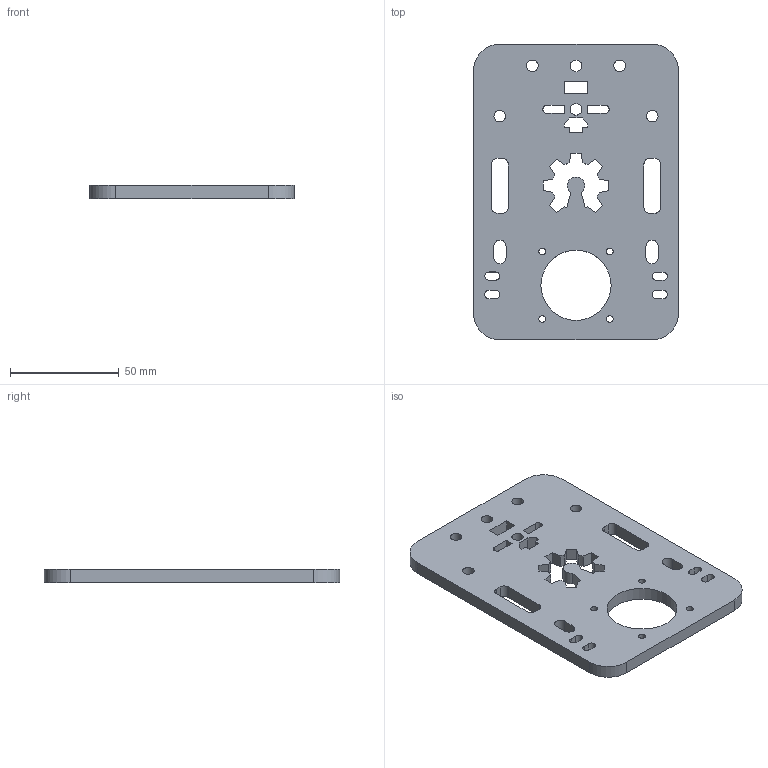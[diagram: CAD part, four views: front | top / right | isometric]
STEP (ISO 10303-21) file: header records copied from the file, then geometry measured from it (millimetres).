
FILE_DESCRIPTION(/* description */ ('STEP AP242 Edition 2','CAx-IF Rec.Pracs.---Representation and Presentation of Product Manufacturing Information (PMI)---4.0---2014-10-13','CAx-IF Rec.Pracs.---3D Tessellated Geometry---0.4---2014-09-14','2;1','CAx-IF Rec.Pracs.---User Defined Attributes---1.5---2016-08-15'),/* implementation_level */ '2;1');
FILE_NAME(/* name */ 'Final Build - Y-axis mount',/* time_stamp */ '2026-08-31T23:26:50Z',/* author */ (''),/* organization */ (''),/* preprocessor_version */ 'ST-DEVELOPER v20',/* originating_system */ 'ONSHAPE BY PTC INC, 1.220',/* authorisation */ ' ');
FILE_SCHEMA (('AP242_MANAGED_MODEL_BASED_3D_ENGINEERING_MIM_LF { 1 0 10303 442 3 1 4 }'));
Length unit declared in the file: metre
Products named in the file (1): Y-axis mount
Bounding box: 93.89 x 135.7 x 6 mm (x, y, z)
Volume: 62670.8 mm3; surface area: 28039.5 mm2
Topology: 1 solids, 1 shells, 123 faces, 363 edges, 242 vertices
Faces by surface type: plane 69, cylinder 54
Full cylindrical faces by diameter (mm): 3.1 x4, 5.3 x6, 32.2 x1
Entity records: 4188 total; most frequent: CARTESIAN_POINT 718, DIRECTION 708, ORIENTED_EDGE 704, EDGE_CURVE 352, LINE 244, VECTOR 244, VERTEX_POINT 242, AXIS2_PLACEMENT_3D 232
